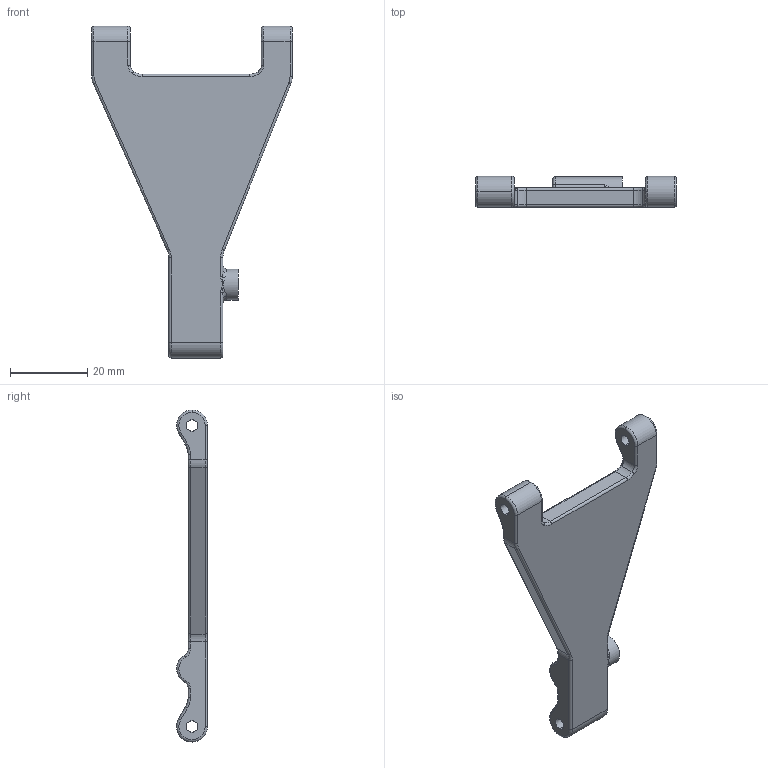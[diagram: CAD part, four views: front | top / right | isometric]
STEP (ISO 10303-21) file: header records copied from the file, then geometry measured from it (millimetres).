
FILE_DESCRIPTION (( 'STEP AP214' ), '1' );
FILE_NAME ('Çåðêàëüíî îòðàçèòüÌ44_Ðû÷àã_Ç_Í_Ë.STEP', '2019-03-21T14:05:49', ( '' ), ( '' ), 'SwSTEP 2.0', 'SolidWorks 2018', '' );
FILE_SCHEMA (( 'AUTOMOTIVE_DESIGN' ));
Length unit declared in the file: millimetre
Products named in the file (1): Çåðêàëüíî îòðàçèòüÌ44_Ðû÷àã_Ç_Í_Ë
Bounding box: 52 x 8 x 86 mm (x, y, z)
Volume: 9706.2 mm3; surface area: 6573.9 mm2
Topology: 1 solids, 1 shells, 212 faces, 491 edges, 280 vertices
Faces by surface type: cylinder 96, torus 67, plane 36, bspline 13
Entity records: 6574 total; most frequent: CARTESIAN_POINT 1657, DIRECTION 1145, ORIENTED_EDGE 970, EDGE_CURVE 485, AXIS2_PLACEMENT_3D 484, CIRCLE 284, VERTEX_POINT 280, EDGE_LOOP 223
